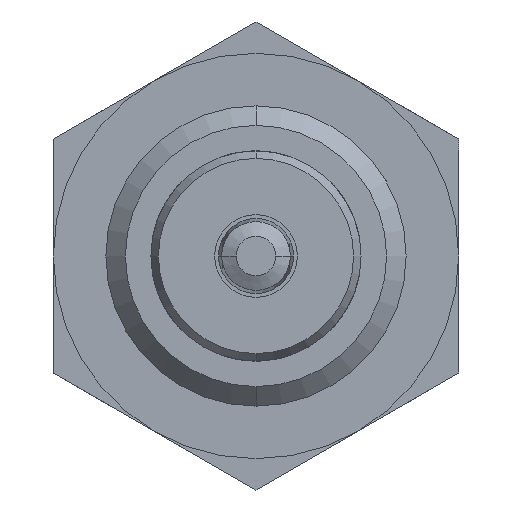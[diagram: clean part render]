
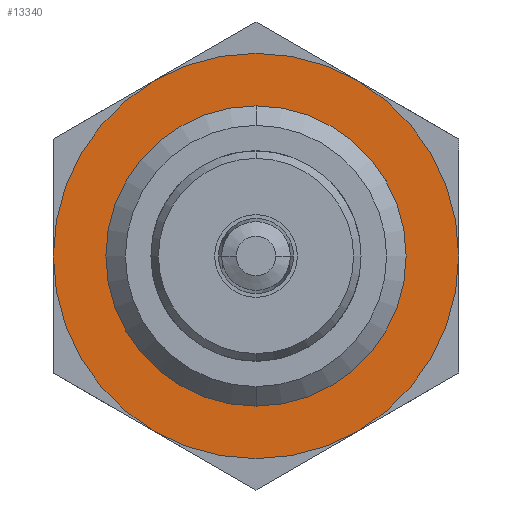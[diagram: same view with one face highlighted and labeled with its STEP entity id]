
A CAD part, front view. The second image highlights one B-rep face of the part: STEP entity #13340.
In plain terms, the highlighted planar face has unit normal (0, -1, 0) as drawn and (0, 0, -1) by its records, which use the part's own axes.
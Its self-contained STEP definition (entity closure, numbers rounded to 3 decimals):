
#114 = CARTESIAN_POINT ( 'NONE',  ( 0., 0., 26.5 ) ) ;
#169 = EDGE_CURVE ( 'NONE', #2172, #6314, #15042, .T. ) ;
#502 = CIRCLE ( 'NONE', #15298, 13.5 ) ;
#564 = CARTESIAN_POINT ( 'NONE',  ( 0., 8.5, 26.5 ) ) ;
#1394 = DIRECTION ( 'NONE',  ( 0., 1., 0. ) ) ;
#1972 = EDGE_CURVE ( 'NONE', #7978, #14284, #6960, .T. ) ;
#2172 = VERTEX_POINT ( 'NONE', #7296 ) ;
#2211 = EDGE_LOOP ( 'NONE', ( #2680, #14094 ) ) ;
#2680 = ORIENTED_EDGE ( 'NONE', *, *, #16030, .F. ) ;
#2967 = DIRECTION ( 'NONE',  ( 0., -1., 0. ) ) ;
#3141 = AXIS2_PLACEMENT_3D ( 'NONE', #13084, #5523, #14335 ) ;
#3192 = DIRECTION ( 'NONE',  ( 0., 0., -1. ) ) ;
#3505 = AXIS2_PLACEMENT_3D ( 'NONE', #114, #8930, #1394 ) ;
#4177 = PLANE ( 'NONE',  #5045 ) ;
#4595 = EDGE_CURVE ( 'NONE', #14284, #7978, #502, .T. ) ;
#4963 = DIRECTION ( 'NONE',  ( 0., 0., -1. ) ) ;
#5045 = AXIS2_PLACEMENT_3D ( 'NONE', #15485, #10502, #2967 ) ;
#5447 = ORIENTED_EDGE ( 'NONE', *, *, #1972, .T. ) ;
#5523 = DIRECTION ( 'NONE',  ( 0., 0., -1. ) ) ;
#5998 = CIRCLE ( 'NONE', #3505, 8.5 ) ;
#6181 = CARTESIAN_POINT ( 'NONE',  ( 0., -13.5, 26.5 ) ) ;
#6314 = VERTEX_POINT ( 'NONE', #564 ) ;
#6960 = CIRCLE ( 'NONE', #3141, 13.5 ) ;
#7296 = CARTESIAN_POINT ( 'NONE',  ( 0., -8.5, 26.5 ) ) ;
#7978 = VERTEX_POINT ( 'NONE', #6181 ) ;
#8930 = DIRECTION ( 'NONE',  ( 0., 0., -1. ) ) ;
#9216 = ORIENTED_EDGE ( 'NONE', *, *, #4595, .T. ) ;
#9926 = FACE_BOUND ( 'NONE', #2211, .T. ) ;
#10502 = DIRECTION ( 'NONE',  ( 0., 0., 1. ) ) ;
#10697 = AXIS2_PLACEMENT_3D ( 'NONE', #12504, #4963, #13765 ) ;
#10726 = CARTESIAN_POINT ( 'NONE',  ( 0., 0., 26.5 ) ) ;
#11983 = DIRECTION ( 'NONE',  ( 0., 1., 0. ) ) ;
#12131 = CARTESIAN_POINT ( 'NONE',  ( 0., 13.5, 26.5 ) ) ;
#12504 = CARTESIAN_POINT ( 'NONE',  ( 0., 0., 26.5 ) ) ;
#13084 = CARTESIAN_POINT ( 'NONE',  ( 0., 0., 26.5 ) ) ;
#13340 = ADVANCED_FACE ( 'NONE', ( #9926, #15412 ), #4177, .F. ) ;
#13765 = DIRECTION ( 'NONE',  ( 0., 1., 0. ) ) ;
#14094 = ORIENTED_EDGE ( 'NONE', *, *, #169, .F. ) ;
#14284 = VERTEX_POINT ( 'NONE', #12131 ) ;
#14335 = DIRECTION ( 'NONE',  ( 0., 1., 0. ) ) ;
#14862 = EDGE_LOOP ( 'NONE', ( #9216, #5447 ) ) ;
#15042 = CIRCLE ( 'NONE', #10697, 8.5 ) ;
#15298 = AXIS2_PLACEMENT_3D ( 'NONE', #10726, #3192, #11983 ) ;
#15412 = FACE_OUTER_BOUND ( 'NONE', #14862, .T. ) ;
#15485 = CARTESIAN_POINT ( 'NONE',  ( 0., 15.588, 26.5 ) ) ;
#16030 = EDGE_CURVE ( 'NONE', #6314, #2172, #5998, .T. ) ;
